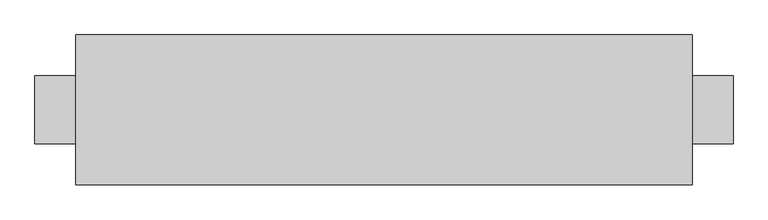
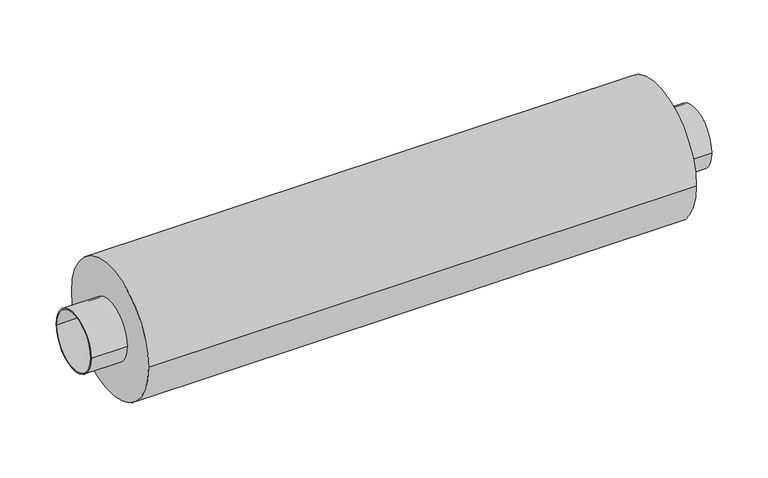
"""IFC4 building model written with IfcOpenShell, lengths in millimetres: damper geometry, СВ_Шумоглушитель_КанальныйКруглый_DN100-315_SHK : SHK-100/900."""

import ifcopenshell
import ifcopenshell.guid

model = None  # the IFC model being written
_history = None  # IfcOwnerHistory: only IFC2X3 demands one
_inside = {}  # id of a spatial element -> (the spatial element, [elements in it])
_under = {}  # id of a project, library or spatial element -> (it, [spatial elements below it])
_declared = {}  # id of a project -> (the project, [libraries it declares])
_typed = {}  # id of a type object -> (the type object, [elements of that type])
_made_of = {}  # id of a material, layer set ... -> (it, [elements and type objects made of it])


def new_model(schema):
    """Start an empty IFC model of exactly this schema.

    Asked for "IFC4X3", IfcOpenShell would pick the latest addendum, in which some entities
    have other attributes; the version numbers below select the first issue.
    IFC2X3 requires an IfcOwnerHistory on every rooted entity: one is made here for all.
    """
    global model, _history
    if schema == "IFC4X3":
        model = ifcopenshell.file(schema_version=(4, 3, 0, 0))
    else:
        model = ifcopenshell.file(schema=schema)
    _inside.clear()
    _under.clear()
    _declared.clear()
    _typed.clear()
    _made_of.clear()
    _history = None
    if model.schema == "IFC2X3":
        org = make("IfcOrganization", Name="unknown")
        user = make(
            "IfcPersonAndOrganization",
            ThePerson=make("IfcPerson", FamilyName="unknown"),
            TheOrganization=org,
        )
        app = make(
            "IfcApplication",
            ApplicationDeveloper=org,
            Version="unknown",
            ApplicationFullName="unknown",
            ApplicationIdentifier="unknown",
        )
        _history = make(
            "IfcOwnerHistory",
            OwningUser=user,
            OwningApplication=app,
            ChangeAction="ADDED",
            CreationDate=0,
        )
    return model


def make(cls, **values):
    """One entity of the class cls with the attributes given. An attribute that is None is left unset."""
    return model.create_entity(
        cls, **{name: value for name, value in values.items() if value is not None}
    )


def rooted(cls, **values):
    """An entity with a GlobalId (a new one), such as an element, a storey or a relation."""
    return make(cls, GlobalId=ifcopenshell.guid.new(), OwnerHistory=_history, **values)


def si_unit(unit_type, name, prefix=None):
    """IfcSIUnit, for example si_unit("LENGTHUNIT", "METRE", prefix="MILLI")."""
    return make("IfcSIUnit", UnitType=unit_type, Prefix=prefix, Name=name)


def assignment(units):
    """IfcUnitAssignment: the units of a project."""
    return None if units is None else make("IfcUnitAssignment", Units=units)


def point(xyz):
    """IfcCartesianPoint."""
    return None if xyz is None else make("IfcCartesianPoint", Coordinates=xyz)


def direction(xyz):
    """IfcDirection."""
    return None if xyz is None else make("IfcDirection", DirectionRatios=xyz)


def frame(location, z_axis=None, x_axis=None):
    """IfcAxis2Placement3D, a coordinate frame: its origin and axes. An axis left out is left unset."""
    return make(
        "IfcAxis2Placement3D",
        Location=point(location),
        Axis=direction(z_axis),
        RefDirection=direction(x_axis),
    )


def frame_2d(location, x_axis=None):
    """IfcAxis2Placement2D, a coordinate frame in the plane: its origin and x axis."""
    return make(
        "IfcAxis2Placement2D", Location=point(location), RefDirection=direction(x_axis)
    )


def origin():
    """The frame at (0, 0, 0) with its axes left unset."""
    return frame((0.0, 0.0, 0.0))


def origin_2d():
    """The frame at (0, 0) in the plane with its x axis left unset."""
    return frame_2d((0.0, 0.0))


def place(relative_to, where):
    """IfcLocalPlacement: puts the frame where relative to a parent placement (None: the world)."""
    return make(
        "IfcLocalPlacement", PlacementRelTo=relative_to, RelativePlacement=where
    )


def context(
    kind, dimensions, precision=None, world=None, true_north=None, identifier=None
):
    """IfcGeometricRepresentationContext, for example the 3D "Model" context."""
    return make(
        "IfcGeometricRepresentationContext",
        ContextIdentifier=identifier,
        ContextType=kind,
        CoordinateSpaceDimension=dimensions,
        Precision=precision,
        WorldCoordinateSystem=world,
        TrueNorth=true_north,
    )


def project(units=None, contexts=None):
    """IfcProject with its units and contexts."""
    return rooted(
        "IfcProject",
        Name="project",
        RepresentationContexts=contexts,
        UnitsInContext=assignment(units),
    )


def spatial(cls, under=None, at=None, **own):
    """A site, building, storey or space (cls), placed at a placement, below another one or the project."""
    s = rooted(cls, ObjectPlacement=at, **own)
    if under is not None:
        _under.setdefault(under.id(), (under, []))[1].append(s)
    return s


def circle_curve(where, radius):
    """IfcCircle in the frame where."""
    return make("IfcCircle", Position=where, Radius=radius)


def trimmed(basis, trim1, trim2, sense, master):
    """IfcTrimmedCurve: the piece of a basis curve between two trims."""
    return make(
        "IfcTrimmedCurve",
        BasisCurve=basis,
        Trim1=trim1,
        Trim2=trim2,
        SenseAgreement=sense,
        MasterRepresentation=master,
    )


def segment(curve, same_sense, transition):
    """IfcCompositeCurveSegment."""
    return make(
        "IfcCompositeCurveSegment",
        Transition=transition,
        SameSense=same_sense,
        ParentCurve=curve,
    )


def composite_curve(segments, self_intersect=None):
    """IfcCompositeCurve: segments joined end to end."""
    return make("IfcCompositeCurve", Segments=segments, SelfIntersect=self_intersect)


def outline(outer, holes=None, kind="AREA"):
    """IfcArbitraryClosedProfileDef: a profile drawn as a closed curve; with holes, ...WithVoids."""
    if holes is None:
        return make("IfcArbitraryClosedProfileDef", ProfileType=kind, OuterCurve=outer)
    return make(
        "IfcArbitraryProfileDefWithVoids",
        ProfileType=kind,
        OuterCurve=outer,
        InnerCurves=holes,
    )


def extrude(swept, where, along, depth):
    """IfcExtrudedAreaSolid: the profile swept, set in the frame where, extruded along a direction by depth."""
    return make(
        "IfcExtrudedAreaSolid",
        SweptArea=swept,
        Position=where,
        ExtrudedDirection=direction(along),
        Depth=depth,
    )


def shape(context_of_items, identifier, shape_type, items):
    """IfcShapeRepresentation: the items that make up one representation, for example the "Body"."""
    return make(
        "IfcShapeRepresentation",
        ContextOfItems=context_of_items,
        RepresentationIdentifier=identifier,
        RepresentationType=shape_type,
        Items=items,
    )


def source(mapping_origin, context_of_items, identifier, shape_type, items):
    """IfcRepresentationMap: a shape defined once, which mapped items show again and again."""
    return make(
        "IfcRepresentationMap",
        MappingOrigin=mapping_origin,
        MappedRepresentation=shape(context_of_items, identifier, shape_type, items),
    )


def transform(
    local_origin,
    x_axis=None,
    y_axis=None,
    z_axis=None,
    scale=None,
    scale2=None,
    scale3=None,
    uniform=True,
):
    """IfcCartesianTransformationOperator3D, or its non-uniform kind. x_axis, y_axis, z_axis: its Axis1, 2, 3."""
    if uniform:
        return make(
            "IfcCartesianTransformationOperator3D",
            Axis1=direction(x_axis),
            Axis2=direction(y_axis),
            LocalOrigin=point(local_origin),
            Scale=scale,
            Axis3=direction(z_axis),
        )
    return make(
        "IfcCartesianTransformationOperator3DnonUniform",
        Axis1=direction(x_axis),
        Axis2=direction(y_axis),
        LocalOrigin=point(local_origin),
        Scale=scale,
        Axis3=direction(z_axis),
        Scale2=scale2,
        Scale3=scale3,
    )


def mapped(mapping_source, mapping_target):
    """IfcMappedItem: shows the shape of a source again, moved by a transform."""
    return make(
        "IfcMappedItem", MappingSource=mapping_source, MappingTarget=mapping_target
    )


def made_of(thing, what):
    """Note that an element or type object is made of a material, layer set ...; save() writes the relation."""
    if what is not None:
        _made_of.setdefault(what.id(), (what, []))[1].append(thing)
    return thing


def element(
    cls,
    number,
    at=None,
    inside=None,
    cuts=None,
    type_object=None,
    material=None,
    context=None,
    identifier="Body",
    shape_type=None,
    held_by="IfcProductDefinitionShape",
    body=None,
    shapes=None,
    **own,
):
    """One element of the class cls, such as IfcWall. Its Tag is "e" and its number.

    at: its placement. inside: the storey or other place that contains it. cuts: it is an
    opening in that element (IfcRelVoidsElement). A single representation is given by context,
    identifier, shape_type and body (its items); several are given by shapes. held_by: the class
    of the entity that holds the representations. save() writes the other relations.
    """
    e = rooted(cls, Tag="e%d" % number, ObjectPlacement=at, **own)
    if body is not None:
        shapes = [shape(context, identifier, shape_type, body)]
    if shapes is not None:
        e.Representation = make(held_by, Representations=shapes)
    if inside is not None:
        _inside.setdefault(inside.id(), (inside, []))[1].append(e)
    if cuts is not None:
        rooted(
            "IfcRelVoidsElement", RelatingBuildingElement=cuts, RelatedOpeningElement=e
        )
    if type_object is not None:
        _typed.setdefault(type_object.id(), (type_object, []))[1].append(e)
    return made_of(e, material)


def aggregate(whole, parts):
    """IfcRelAggregates: a whole, such as a stair, and the parts it consists of."""
    return rooted("IfcRelAggregates", RelatingObject=whole, RelatedObjects=parts)


def save(model, path):
    """Write the relations noted so far, then the file.

    IfcRelAggregates (storeys below a building ...), IfcRelContainedInSpatialStructure (elements
    in a storey), IfcRelDefinesByType, IfcRelAssociatesMaterial and IfcRelDeclares: one each for
    every whole, place, type object, material and project.
    """
    for whole, parts in _under.values():
        aggregate(whole, parts)
    for where, things in _inside.values():
        rooted(
            "IfcRelContainedInSpatialStructure",
            RelatedElements=things,
            RelatingStructure=where,
        )
    for kind, things in _typed.values():
        rooted("IfcRelDefinesByType", RelatedObjects=things, RelatingType=kind)
    for what, things in _made_of.values():
        rooted("IfcRelAssociatesMaterial", RelatedObjects=things, RelatingMaterial=what)
    for by, libraries in _declared.values():
        rooted("IfcRelDeclares", RelatingContext=by, RelatedDefinitions=libraries)
    model.write(path)


def damper_51019c5c(model_context):
    return source(origin(), model_context, "Body", "SweptSolid", [
        extrude(outline(composite_curve([segment(trimmed(circle_curve(origin_2d(), 109.5), [point((-109.5, 0.0))], [point((109.5, 0.0))], False, "CARTESIAN"), True, "CONTINUOUS"), segment(trimmed(circle_curve(origin_2d(), 109.5), [point((109.5, 0.0))], [point((-109.5, 0.0))], False, "CARTESIAN"), True, "CONTINUOUS")], self_intersect=False)), frame((-450.0, 0.0, 0.0), z_axis=(1.0, 0.0, 0.0), x_axis=(0.0, 1.0, 0.0)), (0.0, 0.0, 1.0), 900.0),
        extrude(outline(composite_curve([segment(trimmed(circle_curve(origin_2d(), 49.5), [point((-49.5, 0.0))], [point((49.5, 0.0))], False, "CARTESIAN"), True, "CONTINUOUS"), segment(trimmed(circle_curve(origin_2d(), 49.5), [point((49.5, 0.0))], [point((-49.5, 0.0))], False, "CARTESIAN"), True, "CONTINUOUS")], self_intersect=False), holes=[composite_curve([segment(trimmed(circle_curve(origin_2d(), 47.5), [point((-47.5, 0.0))], [point((47.5, 0.0))], True, "CARTESIAN"), True, "CONTINUOUS"), segment(trimmed(circle_curve(origin_2d(), 47.5), [point((47.5, 0.0))], [point((-47.5, 0.0))], True, "CARTESIAN"), True, "CONTINUOUS")], self_intersect=False)]), frame((-510.0, 0.0, 0.0), z_axis=(1.0, 0.0, 0.0), x_axis=(0.0, 1.0, 0.0)), (0.0, 0.0, 1.0), 60.0),
        extrude(outline(composite_curve([segment(trimmed(circle_curve(origin_2d(), 49.5), [point((-49.5, 0.0))], [point((49.5, 0.0))], False, "CARTESIAN"), True, "CONTINUOUS"), segment(trimmed(circle_curve(origin_2d(), 49.5), [point((49.5, 0.0))], [point((-49.5, 0.0))], False, "CARTESIAN"), True, "CONTINUOUS")], self_intersect=False), holes=[composite_curve([segment(trimmed(circle_curve(origin_2d(), 47.5), [point((-47.5, 0.0))], [point((47.5, 0.0))], True, "CARTESIAN"), True, "CONTINUOUS"), segment(trimmed(circle_curve(origin_2d(), 47.5), [point((47.5, 0.0))], [point((-47.5, 0.0))], True, "CARTESIAN"), True, "CONTINUOUS")], self_intersect=False)]), frame((450.0, 0.0, 0.0), z_axis=(1.0, 0.0, 0.0), x_axis=(0.0, 1.0, 0.0)), (0.0, 0.0, 1.0), 60.0),
    ])


if __name__ == "__main__":
    model = new_model("IFC4")
    model_context = context("Model", 3, world=origin())
    ifc_project = project(units=[si_unit("LENGTHUNIT", "METRE", prefix="MILLI")], contexts=[model_context])
    site = spatial("IfcSite", under=ifc_project)
    building = spatial("IfcBuilding", under=site)
    placement = place(None, origin())
    damper_shape = damper_51019c5c(model_context)
    element("IfcDamper", 1, ObjectType="СВ_Шумоглушитель_КанальныйКруглый_DN100-315_SHK : SHK-100/900", at=placement, inside=building, context=model_context, shape_type="MappedRepresentation", body=[
        mapped(damper_shape, transform((0.0, 0.0, 0.0), x_axis=(1.0, 0.0, 0.0), y_axis=(0.0, 1.0, 0.0), z_axis=(0.0, 0.0, 1.0))),
    ])
    save(model, "model.ifc")
